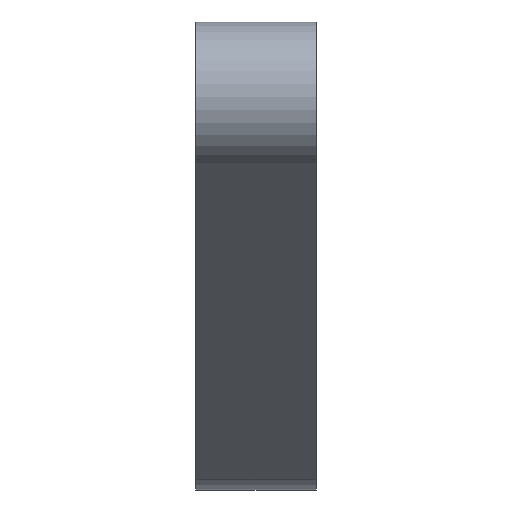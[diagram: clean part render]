
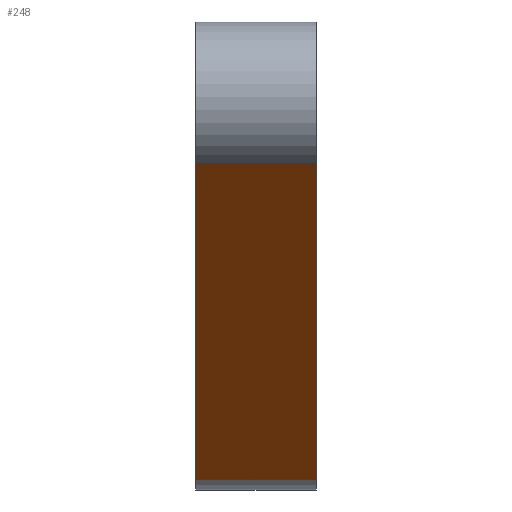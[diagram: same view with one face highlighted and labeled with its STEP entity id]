
A CAD part, top view. The second image highlights one B-rep face of the part: STEP entity #248.
In plain terms, the highlighted planar face has unit normal (0, -0.866, 0.5).
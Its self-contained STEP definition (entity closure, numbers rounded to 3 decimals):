
#24=PLANE('',#287);
#36=FACE_OUTER_BOUND('',#49,.T.);
#49=EDGE_LOOP('',(#202,#203,#204,#205));
#74=LINE('',#425,#93);
#75=LINE('',#428,#94);
#76=LINE('',#430,#95);
#77=LINE('',#431,#96);
#93=VECTOR('',#352,10.);
#94=VECTOR('',#355,10.);
#95=VECTOR('',#356,10.);
#96=VECTOR('',#357,10.);
#129=VERTEX_POINT('',#421);
#130=VERTEX_POINT('',#423);
#131=VERTEX_POINT('',#427);
#132=VERTEX_POINT('',#429);
#160=EDGE_CURVE('',#129,#130,#74,.T.);
#161=EDGE_CURVE('',#131,#129,#75,.T.);
#162=EDGE_CURVE('',#132,#130,#76,.T.);
#163=EDGE_CURVE('',#131,#132,#77,.T.);
#202=ORIENTED_EDGE('',*,*,#161,.T.);
#203=ORIENTED_EDGE('',*,*,#160,.T.);
#204=ORIENTED_EDGE('',*,*,#162,.F.);
#205=ORIENTED_EDGE('',*,*,#163,.F.);
#248=ADVANCED_FACE('',(#36),#24,.T.);
#287=AXIS2_PLACEMENT_3D('',#426,#353,#354);
#352=DIRECTION('',(-1.,0.,0.));
#353=DIRECTION('center_axis',(0.,-0.866,0.5));
#354=DIRECTION('ref_axis',(0.,0.5,0.866));
#355=DIRECTION('',(0.,0.5,0.866));
#356=DIRECTION('',(0.,0.5,0.866));
#357=DIRECTION('',(-1.,0.,0.));
#421=CARTESIAN_POINT('',(-6.,16.67,93.37));
#423=CARTESIAN_POINT('',(-14.,16.67,93.37));
#425=CARTESIAN_POINT('',(-6.,16.67,93.37));
#426=CARTESIAN_POINT('Origin',(-6.,-4.33,56.997));
#427=CARTESIAN_POINT('',(-6.,-4.33,56.997));
#428=CARTESIAN_POINT('',(-6.,-4.33,56.997));
#429=CARTESIAN_POINT('',(-14.,-4.33,56.997));
#430=CARTESIAN_POINT('',(-14.,-4.33,56.997));
#431=CARTESIAN_POINT('',(-6.,-4.33,56.997));
